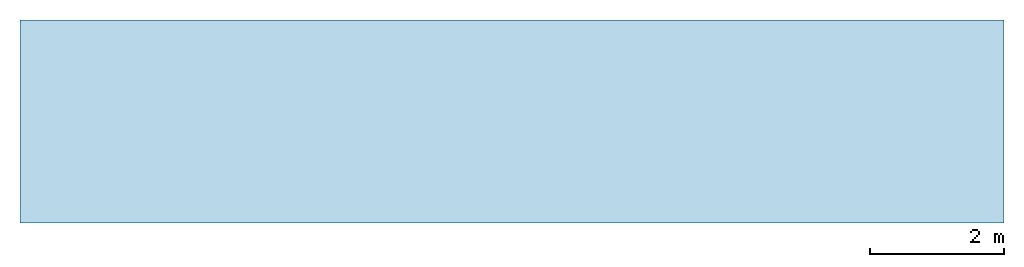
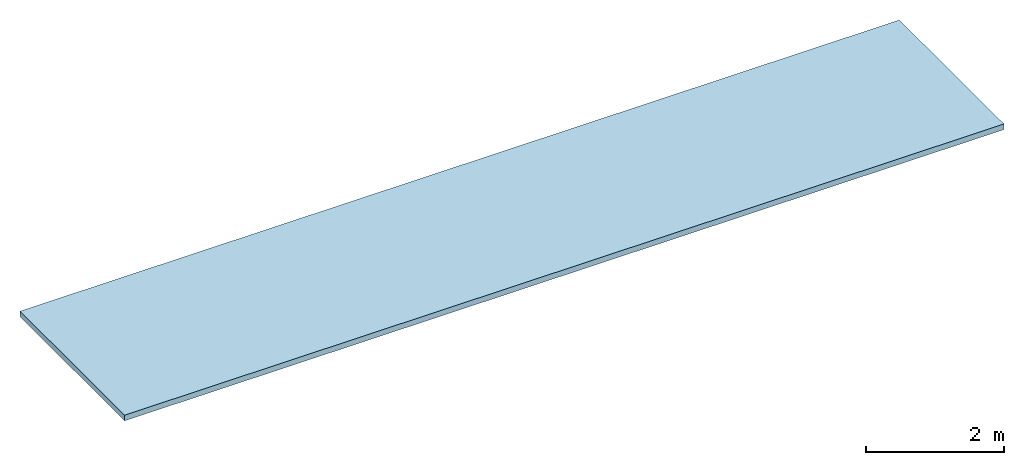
# One storey: 1 slab.
"""IFC2X3 building model written with IfcOpenShell, lengths in millimetres."""

from ifc_helpers import new_model, entity, si_unit, converted_unit, derived_unit, direction, frame, origin_with_axes, place, context, subcontext, project, spatial, faceted_brep, material, layer, layer_set, type_object, element, save


model = new_model("IFC2X3")

# Units and contexts
model_context = context("Model", 3, precision=0.01, world=frame((0.0, 4.29681676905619e-09, 0.0)), true_north=direction((4.01073788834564e-13, 1.0)))
plan_context = context("Plan", 3, precision=0.01, world=frame((0.0, 4.29681676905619e-09, 0.0)), true_north=direction((4.01073788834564e-13, 1.0)))
body_context = subcontext(model_context, "Body", "Model", "MODEL_VIEW")
ifc_project = project(units=[converted_unit("PLANEANGLEUNIT", "DEGREE", entity("IfcPositiveLengthMeasure", 0.0174532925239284), si_unit("PLANEANGLEUNIT", "RADIAN"), dimensions=[0, 0, 0, 0, 0, 0, 0]), si_unit("AREAUNIT", "SQUARE_METRE"), si_unit("LENGTHUNIT", "METRE", prefix="MILLI"), si_unit("MASSUNIT", "GRAM", prefix="KILO"), si_unit("POWERUNIT", "WATT"), si_unit("PRESSUREUNIT", "PASCAL", prefix="KILO"), si_unit("FORCEUNIT", "NEWTON", prefix="KILO"), si_unit("ELECTRICVOLTAGEUNIT", "VOLT"), si_unit("ELECTRICCURRENTUNIT", "AMPERE"), si_unit("THERMODYNAMICTEMPERATUREUNIT", "DEGREE_CELSIUS"), si_unit("TIMEUNIT", "SECOND"), si_unit("VOLUMEUNIT", "CUBIC_METRE"), derived_unit("LINEARVELOCITYUNIT", [(si_unit("LENGTHUNIT", "METRE"), 1), (si_unit("TIMEUNIT", "SECOND"), -1)]), derived_unit("VOLUMETRICFLOWRATEUNIT", [(si_unit("VOLUMEUNIT", "CUBIC_METRE"), 1), (si_unit("TIMEUNIT", "SECOND"), -1)]), derived_unit("THERMALTRANSMITTANCEUNIT", [(si_unit("POWERUNIT", "WATT"), 1), (si_unit("THERMODYNAMICTEMPERATUREUNIT", "KELVIN"), -1), (si_unit("AREAUNIT", "SQUARE_METRE"), -1)]), derived_unit("SOUNDPRESSUREUNIT", [(si_unit("PRESSUREUNIT", "PASCAL"), 1)])], contexts=[model_context, plan_context])

# Site, building, storey
site_placement = place(None, origin_with_axes())
site = spatial("IfcSite", under=ifc_project, at=site_placement, Name="ENGM", CompositionType="ELEMENT")
building_placement = place(site_placement, origin_with_axes())
building = spatial("IfcBuilding", under=site, at=building_placement, Name="TS", CompositionType="ELEMENT")
storey_placement = place(building_placement, frame((0.0, 0.0, 215699.999999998), z_axis=(0.0, 0.0, 1.0), x_axis=(1.0, 0.0, 0.0)))
storey = spatial("IfcBuildingStorey", under=building, at=storey_placement, Name="Nivå G", CompositionType="ELEMENT", Elevation=215699.999999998)

# Slab
ifc_material = material(Name="_NSW Generell Gulv (Floor)")
ifc_layer = layer(ifc_material, 100.0)
ifc_layer_set = layer_set([ifc_layer], Name="Floor:A254 - Gulv ARK 100 mm")
slab_type = type_object("IfcSlabType", Name="Floor:A254 - Gulv ARK 100 mm", PredefinedType="FLOOR", material=ifc_layer_set)
slab_placement = place(storey_placement, frame((622415.373198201, 443180.0, -950.0), z_axis=(0.0, 0.0, 1.0), x_axis=(1.0, 0.0, 0.0)))
element("IfcSlab", 1, at=slab_placement, inside=storey, type_object=slab_type, Name="Floor:A254 - Gulv ARK 100 mm", ObjectType="Floor:A254 - Gulv ARK 100 mm", PredefinedType="FLOOR", context=body_context, shape_type="Brep", body=[
    faceted_brep([(106727.216588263, 7.25506503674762e-11, 100.0), (106727.216588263, 7.25506503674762e-11, -1.19229071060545e-11), (92022.6143017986, 1.27003808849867e-10, -1.19229071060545e-11), (92022.6143017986, 1.27003808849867e-10, 100.0), (92022.6143017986, 3031.4244638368, 100.0), (106727.216588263, 3031.4244638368, 100.0), (106727.216588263, 3031.4244638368, -1.18234311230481e-11), (92022.6143017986, 3031.4244638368, -1.18234311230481e-11)], [[[0, 1, 2, 3]], [[3, 4, 5, 0]], [[1, 6, 7, 2]], [[6, 1, 0, 5]], [[5, 4, 7, 6]], [[4, 3, 2, 7]]], orient=[[False], [False], [False], [False], [False], [False]]),
])

save(model, "model.ifc")
